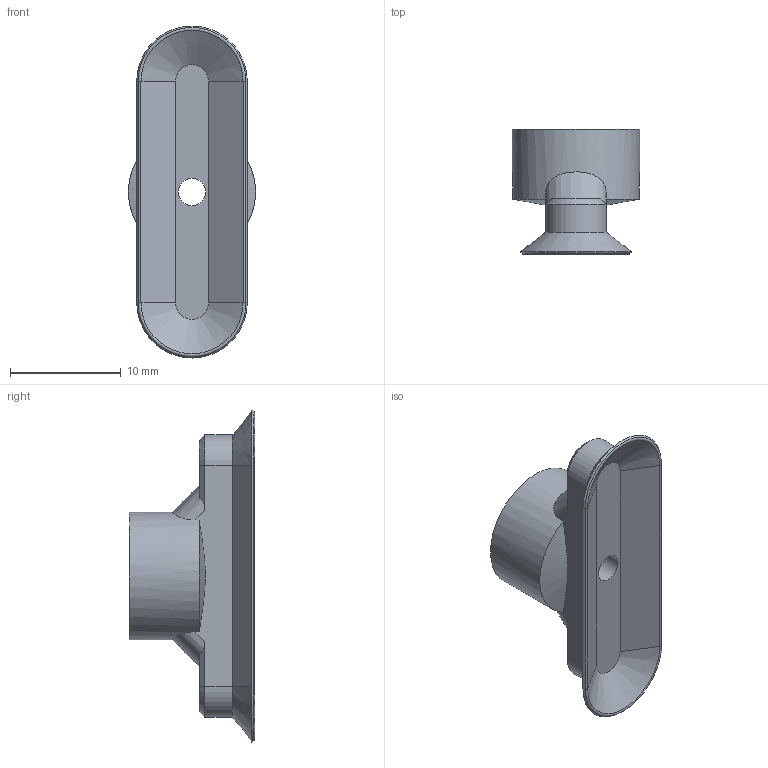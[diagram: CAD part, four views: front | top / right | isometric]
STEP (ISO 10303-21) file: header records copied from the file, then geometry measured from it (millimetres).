
FILE_DESCRIPTION(('STEP AP214'),'1');
FILE_NAME('CA.08.27.002.stp','2019-04-17T13:05:05',(' '),(' '),'Spatial InterOp 3D',' ',' ');
FILE_SCHEMA(('AUTOMOTIVE_DESIGN { 1 0 10303 214 1 1 1 1 }'));
Length unit declared in the file: millimetre
Products named in the file (1): CA.08.27.002
Bounding box: 11.5 x 11.3 x 30 mm (x, y, z)
Volume: 1009.7 mm3; surface area: 1254.9 mm2
Topology: 1 solids, 1 shells, 42 faces, 95 edges, 58 vertices
Faces by surface type: plane 19, cone 10, cylinder 9, extrusion 2, torus 2
Full cylindrical faces by diameter (mm): 2.5 x1, 5.5 x1, 7 x2, 11.5 x1
Entity records: 1717 total; most frequent: CARTESIAN_POINT 462, DIRECTION 188, ORIENTED_EDGE 174, EDGE_CURVE 87, AXIS2_PLACEMENT_3D 70, VERTEX_POINT 55, EDGE_LOOP 52, VECTOR 48
